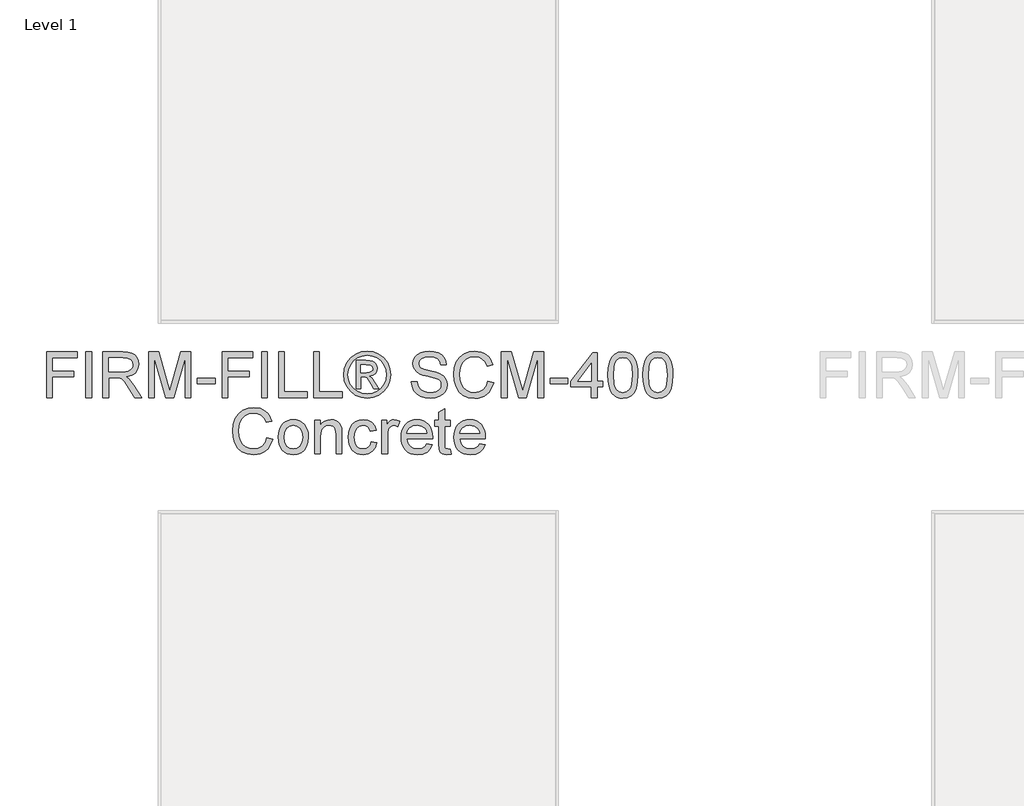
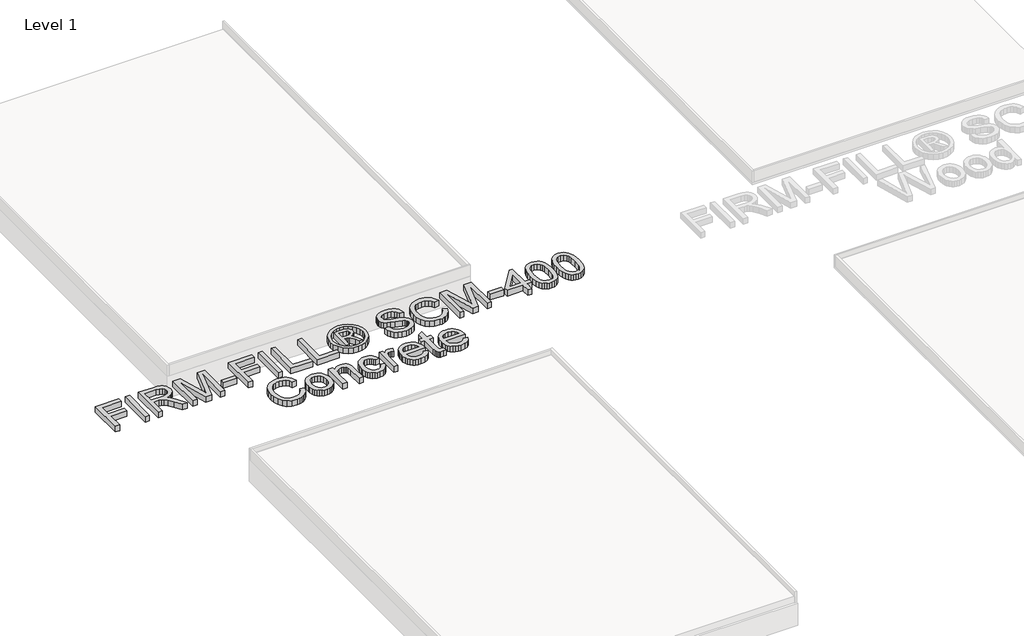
# One storey, part 4 of 10: 1 proxy.
"""IFC4 building model written with IfcOpenShell, lengths in millimetres."""

from ifc_helpers import new_model, si_unit, origin, origin_with_axes, place, context, project, spatial, polyline, outline, extrude, element, save

model = new_model("IFC4")

# Units and contexts
model_context = context("Model", 3, world=origin())
ifc_project = project(units=[si_unit("LENGTHUNIT", "METRE", prefix="MILLI")], contexts=[model_context])

# Site, building, storey
site = spatial("IfcSite", under=ifc_project)
building = spatial("IfcBuilding", under=site)
storey = spatial("IfcBuildingStorey", under=building, Name="Level 1", Elevation=0.0)

# Proxy
placement = place(None, origin())
element("IfcBuildingElementProxy", 1, Name="600mm Arial", ObjectType="600mm Arial", at=placement, inside=storey, context=model_context, shape_type="SweptSolid", body=[
    extrude(outline(polyline([(-5392.4048462, -14373.5364307), (-5392.4048462, -14073.4256615), (-5190.7679231, -14073.4256615), (-5190.7679231, -14110.9395076), (-5354.891, -14110.9395076), (-5354.891, -14200.0348922), (-5214.2140769, -14200.0348922), (-5214.2140769, -14237.5487384), (-5354.891, -14237.5487384), (-5354.891, -14373.5364307), (-5392.4048462, -14373.5364307)])), origin_with_axes(), (0.0, 0.0, 1.0), 50.8),
    extrude(outline(polyline([(-5134.4971539, -14373.5364307), (-5134.4971539, -14073.4256615), (-5096.9833077, -14073.4256615), (-5096.9833077, -14373.5364307), (-5134.4971539, -14373.5364307)])), origin_with_axes(), (0.0, 0.0, 1.0), 50.8),
    extrude(outline(polyline([(-5021.9556154, -14373.5364307), (-5021.9556154, -14073.4256615), (-4892.6354231, -14073.4256615), (-4857.8783318, -14075.449724), (-4832.5912885, -14081.5219115), (-4814.109125, -14092.7321038), (-4799.7666731, -14110.1701807), (-4790.562226, -14131.7937624), (-4787.4940769, -14155.5604692), (-4792.5771298, -14185.1246038), (-4807.8262885, -14209.6331615), (-4819.3776406, -14219.6206735), (-4833.6994856, -14227.6024403), (-4870.6546539, -14237.5487384), (-4849.3333077, -14253.5946999), (-4818.9265769, -14292.2075846), (-4768.8836923, -14373.5364307), (-4812.4788846, -14373.5364307), (-4851.5313846, -14311.3308538), (-4879.7400385, -14270.1535461), (-4899.5593654, -14250.7005653), (-4917.4004231, -14243.5568153), (-4939.1613846, -14242.2379692), (-4984.4417693, -14242.2379692), (-4984.4417693, -14373.5364307), (-5021.9556154, -14373.5364307)]), holes=[polyline([(-4984.4417693, -14204.724123), (-4900.4752308, -14204.724123), (-4876.3604952, -14203.3961182), (-4857.6493654, -14199.4121038), (-4843.5633558, -14192.5064788), (-4833.3239808, -14182.4136422), (-4827.0869375, -14170.2051567), (-4825.0079231, -14156.9525846), (-4828.9736202, -14138.6535942), (-4840.8707116, -14123.9081615), (-4861.3403029, -14114.1816711), (-4891.0235, -14110.9395076), (-4984.4417693, -14110.9395076), (-4984.4417693, -14204.724123)])]), origin_with_axes(), (0.0, 0.0, 1.0), 50.8),
    extrude(outline(polyline([(-4721.8448462, -14373.5364307), (-4721.8448462, -14073.4256615), (-4657.2946539, -14073.4256615), (-4595.8950385, -14284.9539307), (-4583.5125385, -14329.1352769), (-4570.1042693, -14281.2904692), (-4509.7304231, -14073.4256615), (-4445.1802308, -14073.4256615), (-4445.1802308, -14373.5364307), (-4482.6940769, -14373.5364307), (-4482.6940769, -14110.9395076), (-4558.0881154, -14373.5364307), (-4608.9369616, -14373.5364307), (-4684.331, -14110.9395076), (-4684.331, -14373.5364307), (-4721.8448462, -14373.5364307)])), origin_with_axes(), (0.0, 0.0, 1.0), 50.8),
    extrude(outline(polyline([(-4402.9771539, -14284.4410461), (-4402.9771539, -14246.9271999), (-4285.7463846, -14246.9271999), (-4285.7463846, -14284.4410461), (-4402.9771539, -14284.4410461)])), origin_with_axes(), (0.0, 0.0, 1.0), 50.8),
    extrude(outline(polyline([(-4238.8540769, -14373.5364307), (-4238.8540769, -14073.4256615), (-4037.2171539, -14073.4256615), (-4037.2171539, -14110.9395076), (-4201.3402308, -14110.9395076), (-4201.3402308, -14200.0348922), (-4060.6633077, -14200.0348922), (-4060.6633077, -14237.5487384), (-4201.3402308, -14237.5487384), (-4201.3402308, -14373.5364307), (-4238.8540769, -14373.5364307)])), origin_with_axes(), (0.0, 0.0, 1.0), 50.8),
    extrude(outline(polyline([(-3980.9463846, -14373.5364307), (-3980.9463846, -14073.4256615), (-3943.4325385, -14073.4256615), (-3943.4325385, -14373.5364307), (-3980.9463846, -14373.5364307)])), origin_with_axes(), (0.0, 0.0, 1.0), 50.8),
    extrude(outline(polyline([(-3868.4048462, -14373.5364307), (-3868.4048462, -14073.4256615), (-3830.891, -14073.4256615), (-3830.891, -14336.0225846), (-3680.8356154, -14336.0225846), (-3680.8356154, -14373.5364307), (-3868.4048462, -14373.5364307)])), origin_with_axes(), (0.0, 0.0, 1.0), 50.8),
    extrude(outline(polyline([(-3638.6325385, -14373.5364307), (-3638.6325385, -14073.4256615), (-3601.1186923, -14073.4256615), (-3601.1186923, -14336.0225846), (-3451.0633077, -14336.0225846), (-3451.0633077, -14373.5364307), (-3638.6325385, -14373.5364307)])), origin_with_axes(), (0.0, 0.0, 1.0), 50.8),
    extrude(outline(polyline([(-3357.2786923, -14317.2656615), (-3357.2786923, -14129.6964307), (-3296.6850385, -14129.6964307), (-3269.9051346, -14130.9878009), (-3251.6977308, -14134.8619115), (-3239.1961683, -14141.9507096), (-3229.5337885, -14152.8861422), (-3223.3516971, -14166.1570317), (-3221.291, -14180.2521999), (-3224.8445577, -14199.3754692), (-3235.5052308, -14215.8610461), (-3252.0274423, -14227.6940269), (-3273.1656154, -14232.8595076), (-3258.5117693, -14242.824123), (-3232.9408077, -14280.2646999), (-3211.9125385, -14317.2656615), (-3243.5648462, -14317.2656615), (-3260.0504231, -14287.5183538), (-3287.6729231, -14244.4360461), (-3297.7657596, -14239.014123), (-3311.6319616, -14237.5487384), (-3329.1433077, -14237.5487384), (-3329.1433077, -14317.2656615), (-3357.2786923, -14317.2656615)]), holes=[polyline([(-3329.1433077, -14209.4133538), (-3293.5344616, -14209.4133538), (-3272.0848943, -14207.6274163), (-3258.7315769, -14202.2696038), (-3251.7526827, -14193.9627047), (-3249.4263846, -14183.3295076), (-3253.8958077, -14169.7014307), (-3266.3149423, -14160.7625846), (-3295.8058077, -14157.8318153), (-3329.1433077, -14157.8318153), (-3329.1433077, -14209.4133538)])]), origin_with_axes(), (0.0, 0.0, 1.0), 50.8),
    extrude(outline(polyline([(-3286.8669616, -14068.7364307), (-3248.3456635, -14073.7370557), (-3210.7402308, -14088.7389307), (-3177.7049664, -14113.045998), (-3152.8941731, -14145.9621999), (-3137.3702548, -14183.9706134), (-3132.1956154, -14223.5543153), (-3137.2969856, -14262.7899884), (-3152.6010962, -14300.4870076), (-3177.1096539, -14333.2841471), (-3209.8243654, -14357.8201807), (-3247.4939087, -14373.1242913), (-3286.8669616, -14378.2256615), (-3326.1850625, -14373.1242913), (-3363.8362885, -14357.8201807), (-3396.578476, -14333.2841471), (-3421.1694616, -14300.4870076), (-3436.556, -14262.7899884), (-3441.6848462, -14223.5543153), (-3436.4827308, -14183.9706134), (-3420.8763846, -14145.9621999), (-3395.9831635, -14113.045998), (-3362.9204231, -14088.7389307), (-3325.3333077, -14073.7370557), (-3286.8669616, -14068.7364307)]), holes=[polyline([(-3286.8669616, -14096.8718153), (-3318.3910481, -14100.9657336), (-3349.0725385, -14113.2474884), (-3376.0447741, -14133.1492432), (-3396.4410962, -14160.1031615), (-3409.2723702, -14191.2059499), (-3413.5494616, -14223.5543153), (-3409.3547981, -14255.6920317), (-3396.7708077, -14286.4559499), (-3376.6400866, -14313.2083778), (-3349.8052308, -14333.311623), (-3318.9772019, -14345.8956134), (-3286.8669616, -14350.0902769), (-3254.7109279, -14345.8956134), (-3223.8920577, -14333.311623), (-3197.1029952, -14313.2083778), (-3177.0363846, -14286.4559499), (-3164.5073462, -14255.6920317), (-3160.331, -14223.5543153), (-3164.5806154, -14191.2059499), (-3177.3294616, -14160.1031615), (-3197.6708318, -14133.1492432), (-3224.6980193, -14113.2474884), (-3255.4253029, -14100.9657336), (-3286.8669616, -14096.8718153)])]), origin_with_axes(), (0.0, 0.0, 1.0), 50.8),
    extrude(outline(polyline([(-2996.2079231, -14270.3733538), (-2958.6940769, -14270.3733538), (-2954.3895096, -14291.190974), (-2946.6046539, -14307.9238346), (-2934.4602789, -14321.2038826), (-2917.0771539, -14331.6630653), (-2895.8290769, -14338.4496278), (-2872.0898462, -14340.7118153), (-2851.1897981, -14338.9991471), (-2832.8908077, -14333.8611422), (-2818.0629471, -14325.7282576), (-2807.5762885, -14315.0309499), (-2801.3392452, -14302.7491951), (-2799.2602308, -14289.8629692), (-2800.8172019, -14277.3064547), (-2805.4881154, -14266.4534499), (-2814.9764808, -14257.1940509), (-2830.9858077, -14249.4183538), (-2885.6080193, -14235.0942192), (-2921.4641491, -14225.6150124), (-2944.4065769, -14216.5937384), (-2963.0810721, -14203.9731134), (-2976.3153269, -14188.6781615), (-2984.2009279, -14171.0385942), (-2986.8294616, -14151.384123), (-2983.5781394, -14129.4125124), (-2973.8241731, -14108.9246038), (-2957.8240048, -14091.5597961), (-2935.8340769, -14078.9574884), (-2909.4388366, -14071.2916951), (-2880.2227308, -14068.7364307), (-2848.5704231, -14071.4107576), (-2820.8746539, -14079.4337384), (-2798.1245577, -14092.6405172), (-2781.3092693, -14110.8662384), (-2770.6669135, -14132.9752288), (-2766.4356154, -14157.8318153), (-2803.9494616, -14157.8318153), (-2810.8367693, -14135.4480653), (-2825.1975385, -14119.2921999), (-2847.6362404, -14109.5107576), (-2878.7573462, -14106.2502769), (-2910.6111443, -14109.474123), (-2932.4636923, -14119.1456615), (-2945.1026346, -14133.3782096), (-2949.3156154, -14150.2850846), (-2946.3298943, -14164.7008057), (-2937.3727308, -14176.2956615), (-2916.1979231, -14186.6632576), (-2876.1196539, -14197.2506615), (-2834.7591731, -14207.3068634), (-2809.7377308, -14216.0808538), (-2788.3522741, -14229.6906134), (-2773.4328269, -14246.4875846), (-2764.6679952, -14266.2885942), (-2761.7463846, -14288.9104692), (-2765.1076106, -14312.0360701), (-2775.1912885, -14333.787873), (-2791.5852789, -14352.5081615), (-2813.8774423, -14366.5392192), (-2840.6848221, -14375.3040509), (-2870.6244616, -14378.2256615), (-2907.3781394, -14375.0750846), (-2937.6291731, -14365.6233538), (-2961.7255914, -14349.8338346), (-2980.0154231, -14327.6698922), (-2991.7568173, -14300.6701807), (-2996.2079231, -14270.3733538)])), origin_with_axes(), (0.0, 0.0, 1.0), 50.8),
    extrude(outline(polyline([(-2494.4602308, -14266.8564307), (-2456.9463846, -14276.5279692), (-2464.3694736, -14299.8573502), (-2474.2562404, -14320.242224), (-2486.6066851, -14337.6825906), (-2501.4208077, -14352.1784499), (-2518.3643173, -14363.574105), (-2537.1029231, -14371.7138586), (-2557.636625, -14376.5977108), (-2579.9654231, -14378.2256615), (-2623.4781875, -14373.2983057), (-2658.0337885, -14358.5162384), (-2684.5206154, -14334.3923442), (-2703.8270577, -14301.4395076), (-2715.6142452, -14262.6984019), (-2719.5433077, -14221.2096999), (-2715.1013606, -14177.4496519), (-2701.7755193, -14139.6610461), (-2680.2618414, -14109.0436663), (-2651.2563846, -14086.7972961), (-2616.8564808, -14073.2516471), (-2579.1594616, -14068.7364307), (-2538.0279471, -14074.5796519), (-2520.1342272, -14081.8836783), (-2504.0218654, -14092.1093153), (-2489.9564628, -14104.9863826), (-2478.2036202, -14120.2446999), (-2461.6356154, -14157.9050846), (-2499.1494616, -14166.8439307), (-2512.15475, -14139.4870317), (-2529.9225385, -14120.7209499), (-2552.6726346, -14109.8679451), (-2580.6248462, -14106.2502769), (-2612.8449904, -14110.2617672), (-2639.3135, -14122.2962384), (-2659.3984279, -14141.0897961), (-2672.4678269, -14165.3785461), (-2679.6390529, -14192.8361903), (-2682.0294616, -14221.1364307), (-2679.1994375, -14255.7927769), (-2670.7093654, -14285.7598922), (-2656.2386923, -14309.8929451), (-2635.4668654, -14327.0471038), (-2610.5644856, -14337.2956374), (-2583.7021539, -14340.7118153), (-2552.3887164, -14336.0592192), (-2526.2957116, -14322.1014307), (-2506.5954471, -14298.9849884), (-2494.4602308, -14266.8564307)])), origin_with_axes(), (0.0, 0.0, 1.0), 50.8),
    extrude(outline(polyline([(-2405.3648462, -14373.5364307), (-2405.3648462, -14073.4256615), (-2340.8146539, -14073.4256615), (-2279.4150385, -14284.9539307), (-2267.0325385, -14329.1352769), (-2253.6242693, -14281.2904692), (-2193.2504231, -14073.4256615), (-2128.7002308, -14073.4256615), (-2128.7002308, -14373.5364307), (-2166.2140769, -14373.5364307), (-2166.2140769, -14110.9395076), (-2241.6081154, -14373.5364307), (-2292.4569616, -14373.5364307), (-2367.851, -14110.9395076), (-2367.851, -14373.5364307), (-2405.3648462, -14373.5364307)])), origin_with_axes(), (0.0, 0.0, 1.0), 50.8),
    extrude(outline(polyline([(-2086.4971539, -14284.4410461), (-2086.4971539, -14246.9271999), (-1969.2663846, -14246.9271999), (-1969.2663846, -14284.4410461), (-2086.4971539, -14284.4410461)])), origin_with_axes(), (0.0, 0.0, 1.0), 50.8),
    extrude(outline(polyline([(-1814.5217693, -14373.5364307), (-1814.5217693, -14303.1979692), (-1950.5094616, -14303.1979692), (-1950.5094616, -14265.684123), (-1805.1433077, -14078.1148922), (-1777.0079231, -14078.1148922), (-1777.0079231, -14265.684123), (-1739.4940769, -14265.684123), (-1739.4940769, -14303.1979692), (-1777.0079231, -14303.1979692), (-1777.0079231, -14373.5364307), (-1814.5217693, -14373.5364307)]), holes=[polyline([(-1814.5217693, -14265.684123), (-1814.5217693, -14149.7721999), (-1904.3498462, -14265.684123), (-1814.5217693, -14265.684123)])]), origin_with_axes(), (0.0, 0.0, 1.0), 50.8),
    extrude(outline(polyline([(-1706.6694616, -14225.8989307), (-1703.9127068, -14177.8617913), (-1695.6424423, -14139.5511422), (-1681.9410962, -14110.3808297), (-1662.8910962, -14089.7646999), (-1638.3550625, -14077.5104211), (-1608.1956154, -14073.4256615), (-1585.0791731, -14075.8435461), (-1564.3806154, -14083.0971999), (-1547.0707596, -14094.9027047), (-1534.1204231, -14110.9761422), (-1524.3389808, -14131.1801326), (-1516.5358077, -14155.3772961), (-1511.4252789, -14186.1045797), (-1509.7217693, -14225.8989307), (-1512.4510481, -14273.6613105), (-1520.6388846, -14311.880373), (-1534.2578029, -14341.0781615), (-1553.2803269, -14361.7767192), (-1577.8713125, -14374.1134259), (-1608.1956154, -14378.2256615), (-1628.8575385, -14376.439724), (-1647.1748462, -14371.0819115), (-1663.1475385, -14362.152224), (-1676.7756154, -14349.6506615), (-1689.8541731, -14327.0516831), (-1699.196, -14298.8934019), (-1704.8010962, -14265.1758177), (-1706.6694616, -14225.8989307)]), holes=[polyline([(-1669.1556154, -14225.8256615), (-1664.7594616, -14284.8348682), (-1659.2642693, -14305.0182516), (-1651.571, -14318.9874884), (-1631.9348462, -14335.2807336), (-1608.1956154, -14340.7118153), (-1584.4563846, -14335.2624163), (-1564.8202308, -14318.9142192), (-1557.1269616, -14304.9220858), (-1551.6317693, -14284.7432817), (-1547.2356154, -14225.8256615), (-1551.4852308, -14168.1444596), (-1556.79725, -14148.0274764), (-1564.2340769, -14133.7262384), (-1583.8335962, -14116.6361903), (-1608.6352308, -14110.9395076), (-1632.1180193, -14115.9584499), (-1650.9848462, -14131.0152769), (-1658.9345577, -14146.5849884), (-1664.6129231, -14167.576623), (-1669.1556154, -14225.8256615)])]), origin_with_axes(), (0.0, 0.0, 1.0), 50.8),
    extrude(outline(polyline([(-1476.8971539, -14225.8989307), (-1474.1403991, -14177.8617913), (-1465.8701346, -14139.5511422), (-1452.1687885, -14110.3808297), (-1433.1187885, -14089.7646999), (-1408.5827548, -14077.5104211), (-1378.4233077, -14073.4256615), (-1355.3068654, -14075.8435461), (-1334.6083077, -14083.0971999), (-1317.2984519, -14094.9027047), (-1304.3481154, -14110.9761422), (-1294.5666731, -14131.1801326), (-1286.7635, -14155.3772961), (-1281.6529712, -14186.1045797), (-1279.9494616, -14225.8989307), (-1282.6787404, -14273.6613105), (-1290.8665769, -14311.880373), (-1304.4854952, -14341.0781615), (-1323.5080193, -14361.7767192), (-1348.0990048, -14374.1134259), (-1378.4233077, -14378.2256615), (-1399.0852308, -14376.439724), (-1417.4025385, -14371.0819115), (-1433.3752308, -14362.152224), (-1447.0033077, -14349.6506615), (-1460.0818654, -14327.0516831), (-1469.4236923, -14298.8934019), (-1475.0287885, -14265.1758177), (-1476.8971539, -14225.8989307)]), holes=[polyline([(-1439.3833077, -14225.8256615), (-1434.9871539, -14284.8348682), (-1429.4919616, -14305.0182516), (-1421.7986923, -14318.9874884), (-1402.1625385, -14335.2807336), (-1378.4233077, -14340.7118153), (-1354.6840769, -14335.2624163), (-1335.0479231, -14318.9142192), (-1327.3546539, -14304.9220858), (-1321.8594616, -14284.7432817), (-1317.4633077, -14225.8256615), (-1321.7129231, -14168.1444596), (-1327.0249423, -14148.0274764), (-1334.4617693, -14133.7262384), (-1354.0612885, -14116.6361903), (-1378.8629231, -14110.9395076), (-1402.3457116, -14115.9584499), (-1421.2125385, -14131.0152769), (-1429.16225, -14146.5849884), (-1434.8406154, -14167.576623), (-1439.3833077, -14225.8256615)])]), origin_with_axes(), (0.0, 0.0, 1.0), 50.8),
    extrude(outline(polyline([(-3945.7771539, -14637.3056615), (-3908.2633077, -14646.9771999), (-3915.6863967, -14670.306581), (-3925.5731635, -14690.6914547), (-3937.9236082, -14708.1318213), (-3952.7377308, -14722.6276807), (-3969.6812404, -14734.0233358), (-3988.4198462, -14742.1630894), (-4008.9535481, -14747.0469415), (-4031.2823462, -14748.6748922), (-4074.7951106, -14743.7475365), (-4109.3507116, -14728.9654692), (-4135.8375385, -14704.8415749), (-4155.1439808, -14671.8887384), (-4166.9311683, -14633.1476326), (-4170.8602308, -14591.6589307), (-4166.4182837, -14547.8988826), (-4153.0924423, -14510.1102769), (-4131.5787644, -14479.4928971), (-4102.5733077, -14457.2465269), (-4068.1734039, -14443.7008778), (-4030.4763846, -14439.1856615), (-3989.3448702, -14445.0288826), (-3971.4511503, -14452.3329091), (-3955.3387885, -14462.5585461), (-3941.2733858, -14475.4356134), (-3929.5205433, -14490.6939307), (-3912.9525385, -14528.3543153), (-3950.4663846, -14537.2931615), (-3963.4716731, -14509.9362624), (-3981.2394616, -14491.1701807), (-4003.9895577, -14480.3171759), (-4031.9417693, -14476.6995076), (-4064.1619135, -14480.710998), (-4090.6304231, -14492.7454692), (-4110.715351, -14511.5390269), (-4123.78475, -14535.8277769), (-4130.955976, -14563.2854211), (-4133.3463846, -14591.5856615), (-4130.5163606, -14626.2420076), (-4122.0262885, -14656.209123), (-4107.5556154, -14680.3421759), (-4086.7837885, -14697.4963346), (-4061.8814087, -14707.7448682), (-4035.0190769, -14711.1610461), (-4003.7056394, -14706.5084499), (-3977.6126346, -14692.5506615), (-3957.9123702, -14669.4342192), (-3945.7771539, -14637.3056615)])), origin_with_axes(), (0.0, 0.0, 1.0), 50.8),
    extrude(outline(polyline([(-3870.7494616, -14633.7887384), (-3868.7208197, -14605.2457937), (-3862.6348943, -14580.6502288), (-3852.4916851, -14560.0020437), (-3838.2911923, -14543.3012384), (-3823.9945337, -14532.6268273), (-3808.2141731, -14525.002248), (-3790.9501106, -14520.4275004), (-3772.2023462, -14518.9025846), (-3751.5060781, -14520.7595016), (-3732.7926587, -14526.3302528), (-3716.0620878, -14535.6148382), (-3701.3143654, -14548.6132576), (-3689.2776046, -14564.8858959), (-3680.6799183, -14583.9931374), (-3675.5213065, -14605.9349824), (-3673.8017693, -14630.7114307), (-3676.8424423, -14668.6099403), (-3685.9644616, -14697.4596999), (-3700.902226, -14719.0649644), (-3721.3901346, -14735.2299884), (-3745.7246779, -14745.3136663), (-3772.2023462, -14748.6748922), (-3793.2008498, -14746.8248442), (-3812.0882837, -14741.2746999), (-3828.8646479, -14732.0244596), (-3843.5299423, -14719.074123), (-3855.438482, -14702.643498), (-3863.9445818, -14682.9523922), (-3869.0482416, -14660.0008057), (-3870.7494616, -14633.7887384)]), holes=[polyline([(-3833.2356154, -14633.7154692), (-3828.8944135, -14667.666599), (-3815.8708077, -14691.8546038), (-3796.2712885, -14706.3344355), (-3772.2023462, -14711.1610461), (-3748.2433077, -14706.3069596), (-3728.6804231, -14691.7446999), (-3715.6568173, -14667.2361422), (-3711.3156154, -14632.5431615), (-3715.6842933, -14599.5811663), (-3728.7903269, -14575.722873), (-3748.3806875, -14561.2430413), (-3772.2023462, -14556.4164307), (-3796.2712885, -14561.224724), (-3815.8708077, -14575.6496038), (-3828.8944135, -14599.7826567), (-3833.2356154, -14633.7154692)])]), origin_with_axes(), (0.0, 0.0, 1.0), 50.8),
    extrude(outline(polyline([(-3631.5986923, -14743.9856615), (-3631.5986923, -14523.5918153), (-3594.0848462, -14523.5918153), (-3594.0848462, -14554.3648922), (-3581.0520818, -14538.8501326), (-3565.3999423, -14527.7681615), (-3547.1284279, -14521.1189788), (-3526.2375385, -14518.9025846), (-3507.7462164, -14520.6885221), (-3490.8118654, -14526.0463346), (-3476.6892212, -14534.3074403), (-3466.6330193, -14544.8032576), (-3455.3861923, -14572.389123), (-3453.4079231, -14608.6573922), (-3453.4079231, -14743.9856615), (-3490.9217693, -14743.9856615), (-3490.9217693, -14613.7129692), (-3495.2446539, -14580.5220076), (-3501.2252548, -14570.6398201), (-3510.5212885, -14562.9740269), (-3522.4366971, -14558.0558297), (-3536.2754231, -14556.4164307), (-3558.2470337, -14560.0982096), (-3576.9764808, -14571.1435461), (-3584.4613906, -14580.1602408), (-3589.8077548, -14592.4832096), (-3594.0848462, -14627.0479692), (-3594.0848462, -14743.9856615), (-3631.5986923, -14743.9856615)])), origin_with_axes(), (0.0, 0.0, 1.0), 50.8),
    extrude(outline(polyline([(-3261.1494616, -14664.2687384), (-3223.6356154, -14668.9579692), (-3234.0947981, -14702.3229451), (-3253.7492693, -14727.5367192), (-3280.7489808, -14743.390349), (-3313.2438846, -14748.6748922), (-3334.2836022, -14746.8317132), (-3353.1481394, -14741.3021759), (-3369.8374964, -14732.0862805), (-3384.3516731, -14719.1840269), (-3396.0999363, -14702.8381194), (-3404.4915529, -14683.2912624), (-3409.5265229, -14660.543456), (-3411.2048462, -14634.5946999), (-3408.3381875, -14601.2114067), (-3399.7382116, -14572.2792192), (-3385.2675385, -14548.9154932), (-3364.7887885, -14532.2375846), (-3340.2893894, -14522.2363346), (-3313.7567693, -14518.9025846), (-3282.0586683, -14523.4819115), (-3256.7166731, -14537.2198922), (-3238.5367452, -14559.3838346), (-3228.3248462, -14589.2410461), (-3265.8386923, -14593.9302769), (-3272.6435721, -14577.5637624), (-3283.2401346, -14565.8315269), (-3297.042226, -14558.7702047), (-3313.4636923, -14556.4164307), (-3337.7066491, -14561.0507096), (-3356.9489808, -14574.9535461), (-3369.5054952, -14598.8759499), (-3373.691, -14633.5689307), (-3369.5970818, -14668.7290028), (-3357.3153269, -14692.7338346), (-3338.4210241, -14706.5542432), (-3314.4894616, -14711.1610461), (-3295.0639568, -14708.2852288), (-3279.1370577, -14699.6577769), (-3267.5513606, -14685.0588826), (-3261.1494616, -14664.2687384)])), origin_with_axes(), (0.0, 0.0, 1.0), 50.8),
    extrude(outline(polyline([(-3190.811, -14743.9856615), (-3190.811, -14523.5918153), (-3157.9863846, -14523.5918153), (-3157.9863846, -14556.196623), (-3145.8603269, -14537.2931615), (-3134.6867693, -14526.1562384), (-3123.4765769, -14520.715998), (-3111.2406154, -14518.9025846), (-3092.5569616, -14521.7967192), (-3073.5802308, -14530.479123), (-3086.1092693, -14564.1096999), (-3099.2977308, -14558.339748), (-3112.4861923, -14556.4164307), (-3123.687226, -14558.2664788), (-3133.6976346, -14563.816623), (-3141.784726, -14572.6455653), (-3147.2158077, -14584.3320076), (-3151.7768173, -14605.2870076), (-3153.2971539, -14628.1470076), (-3153.2971539, -14743.9856615), (-3190.811, -14743.9856615)])), origin_with_axes(), (0.0, 0.0, 1.0), 50.8),
    extrude(outline(polyline([(-2895.8290769, -14678.3364307), (-2859.0479231, -14683.0256615), (-2872.3004952, -14710.739748), (-2893.4478269, -14731.456623), (-2922.0136683, -14744.3703249), (-2957.5217693, -14748.6748922), (-2980.798488, -14746.8179752), (-3001.5382596, -14741.247224), (-3019.7410842, -14731.9626386), (-3035.4069616, -14718.9642192), (-3048.0046899, -14702.6137324), (-3057.0030673, -14683.2729451), (-3062.4020938, -14660.9418574), (-3064.2017693, -14635.6204692), (-3062.3837765, -14609.4404572), (-3056.9297981, -14586.3652288), (-3047.8398342, -14566.3947841), (-3035.1138846, -14549.529123), (-3019.4892212, -14536.1300124), (-3001.7031154, -14526.5592192), (-2981.7555673, -14520.8167432), (-2959.6465769, -14518.9025846), (-2938.2496719, -14520.8121639), (-2918.899726, -14526.5409019), (-2901.5967392, -14536.0887985), (-2886.3407116, -14549.4558538), (-2873.887232, -14566.2848802), (-2864.9918894, -14586.2186903), (-2859.6546839, -14609.2572841), (-2857.8756154, -14635.4006615), (-2858.0954231, -14645.5118153), (-3026.6879231, -14645.5118153), (-3020.1944375, -14673.592248), (-3005.1101346, -14694.2358538), (-2983.3400144, -14706.929748), (-2956.7890769, -14711.1610461), (-2936.8232116, -14709.2010942), (-2920.0079231, -14703.3212384), (-2906.3432116, -14693.1551326), (-2895.8290769, -14678.3364307)]), holes=[polyline([(-3026.6879231, -14607.9979692), (-2895.3894616, -14607.9979692), (-2900.4633558, -14588.1786422), (-2910.4096539, -14574.0010461), (-2932.2805193, -14560.8125846), (-2959.7931154, -14556.4164307), (-2985.0801587, -14559.9241951), (-3005.9893654, -14570.4474884), (-3020.5241491, -14586.8506374), (-3026.6879231, -14607.9979692)])]), origin_with_axes(), (0.0, 0.0, 1.0), 50.8),
    extrude(outline(polyline([(-2740.6448462, -14712.6996999), (-2735.9556154, -14745.0846999), (-2764.0177308, -14748.6748922), (-2782.0236443, -14747.1179211), (-2795.4502308, -14742.4470076), (-2804.9385962, -14735.2483057), (-2811.1298462, -14726.1079692), (-2814.5368654, -14710.4100365), (-2815.6725385, -14683.5385461), (-2815.6725385, -14561.1056615), (-2843.8079231, -14561.1056615), (-2843.8079231, -14523.5918153), (-2815.6725385, -14523.5918153), (-2815.6725385, -14470.0320076), (-2778.1586923, -14447.9779692), (-2778.1586923, -14523.5918153), (-2740.6448462, -14523.5918153), (-2740.6448462, -14561.1056615), (-2778.1586923, -14561.1056615), (-2778.1586923, -14682.4395076), (-2776.1804231, -14701.7825846), (-2769.7693654, -14708.6332576), (-2756.9838846, -14711.1610461), (-2740.6448462, -14712.6996999)])), origin_with_axes(), (0.0, 0.0, 1.0), 50.8),
    extrude(outline(polyline([(-2548.826, -14678.3364307), (-2512.0448462, -14683.0256615), (-2525.2974183, -14710.739748), (-2546.44475, -14731.456623), (-2575.0105914, -14744.3703249), (-2610.5186923, -14748.6748922), (-2633.7954111, -14746.8179752), (-2654.5351827, -14741.247224), (-2672.7380072, -14731.9626386), (-2688.4038846, -14718.9642192), (-2701.001613, -14702.6137324), (-2709.9999904, -14683.2729451), (-2715.3990169, -14660.9418574), (-2717.1986923, -14635.6204692), (-2715.3806995, -14609.4404572), (-2709.9267212, -14586.3652288), (-2700.8367572, -14566.3947841), (-2688.1108077, -14549.529123), (-2672.4861443, -14536.1300124), (-2654.7000385, -14526.5592192), (-2634.7524904, -14520.8167432), (-2612.6435, -14518.9025846), (-2591.246595, -14520.8121639), (-2571.8966491, -14526.5409019), (-2554.5936623, -14536.0887985), (-2539.3376346, -14549.4558538), (-2526.8841551, -14566.2848802), (-2517.9888125, -14586.2186903), (-2512.651607, -14609.2572841), (-2510.8725385, -14635.4006615), (-2511.0923462, -14645.5118153), (-2679.6848462, -14645.5118153), (-2673.1913606, -14673.592248), (-2658.1070577, -14694.2358538), (-2636.3369375, -14706.929748), (-2609.786, -14711.1610461), (-2589.8201346, -14709.2010942), (-2573.0048462, -14703.3212384), (-2559.3401346, -14693.1551326), (-2548.826, -14678.3364307)]), holes=[polyline([(-2679.6848462, -14607.9979692), (-2548.3863846, -14607.9979692), (-2553.4602789, -14588.1786422), (-2563.4065769, -14574.0010461), (-2585.2774423, -14560.8125846), (-2612.7900385, -14556.4164307), (-2638.0770818, -14559.9241951), (-2658.9862885, -14570.4474884), (-2673.5210721, -14586.8506374), (-2679.6848462, -14607.9979692)])]), origin_with_axes(), (0.0, 0.0, 1.0), 50.8),
])

save(model, "model.ifc")
